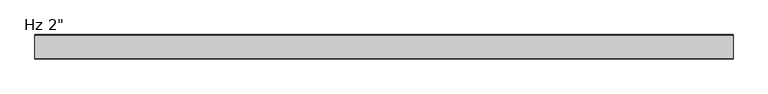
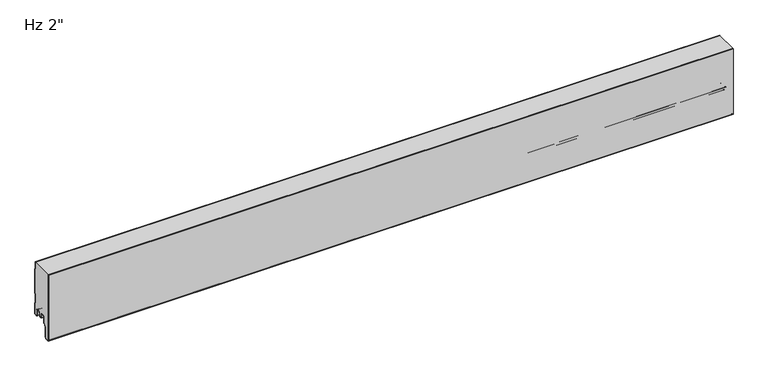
"""IFC4 building model written with IfcOpenShell, lengths in millimetres: plate geometry."""

from ifc_helpers import new_model, si_unit, point, frame, frame_2d, origin, place, context, project, spatial, polyline, circle_curve, trimmed, segment, composite_curve, outline, extrude, source, transform, mapped, element, save
from ifc_brep_helpers import plane_surface, cylinder_surface, revolved_surface, advanced_brep


def plate_2206daa0(model_context):
    return source(origin(), model_context, "Body", "SolidModel", [
        advanced_brep(
        [(-730.0, -22.470875, 1.0316999), (-730.0, -21.3014003, 2.2328239), (-730.0, -21.3014003, 5.9912173), (-730.0, -22.6998791, 5.9912173), (-730.0, -22.6998791, 8.6903283), (-730.0, -26.0498744, 12.0403236), (-730.0, -30.4498656, 12.0403236), (-730.0, -33.7998609, 8.6903283), (-730.0, -33.7998609, -3.1205608), (-730.0, -34.2977778, -4.3226385), (-730.0, -39.7998489, -9.8247096), (-730.0, -39.7998489, -31.9198392), (-730.0, -42.0184509, -34.5765709), (-730.0, -47.0002718, -35.0125699), (-730.0, -49.7945967, -32.4521176), (-730.0, -49.8, 114.0023437), (-730.0, -2.206575, 114.0023437), (-730.0, -2.206575, 98.6192114), (-730.0, -1.0063443, 97.2335785), (-730.0, -1.0063443, 43.1801631), (-730.0, -2.206575, 41.7945301), (-730.0, -2.206575, 22.4193638), (-730.0, -1.0063443, 21.0337309), (-730.0, -1.0063443, -3.4662506), (-730.0, -5.2378832, -3.4662506), (-730.0, -7.0078774, -1.6962564), (-730.0, -7.0078774, 8.7237222), (-730.0, -10.3078733, 12.023718), (-730.0, -14.7078645, 12.023718), (-730.0, -18.0078602, 8.7237223), (-730.0, -18.0078602, 6.0315125), (-730.0, -19.0078547, 6.0315125), (-730.0, -19.0078547, 2.0313089), (-730.0, -18.0078635, 1.0313117), (-730.0, -19.0391752, 0.0), (-730.0, -21.4391751, 0.0), (730.0, -22.470875, 1.0316999), (730.0, -21.4391751, 0.0), (730.0, -19.0391752, 0.0), (730.0, -18.0078635, 1.0313117), (730.0, -19.0078547, 2.0313089), (730.0, -19.0078547, 6.0315125), (730.0, -18.0078602, 6.0315125), (730.0, -18.0078602, 8.7237223), (730.0, -14.7078645, 12.023718), (730.0, -10.3078733, 12.023718), (730.0, -7.0078774, 8.7237222), (730.0, -7.0078774, -1.6962564), (730.0, -5.2378832, -3.4662506), (730.0, -1.0063443, -3.4662506), (730.0, -1.0063443, 21.0337309), (730.0, -2.206575, 22.4193638), (730.0, -2.206575, 41.7945301), (730.0, -1.0063443, 43.1801631), (730.0, -1.0063443, 97.2335785), (730.0, -2.206575, 98.6192114), (730.0, -2.206575, 114.0023437), (730.0, -49.8, 114.0023437), (730.0, -49.8, -32.4521176), (730.0, -47.0002718, -35.0125699), (730.0, -42.0184509, -34.5765709), (730.0, -39.7998489, -31.9198392), (730.0, -39.7998489, -9.8247096), (730.0, -34.2977778, -4.3226385), (730.0, -33.7998609, -3.1205608), (730.0, -33.7998609, 8.6903283), (730.0, -30.4498656, 12.0403236), (730.0, -26.0498744, 12.0403236), (730.0, -22.6998791, 8.6903283), (730.0, -22.6998791, 5.9912173), (730.0, -21.3014003, 5.9912173), (730.0, -21.3014003, 2.2328239)],
        [
            (0, 1, circle_curve(frame((-730.0, -22.5013969, 2.2313092), z_axis=(1.0, 0.0, 0.0), x_axis=(0.0, 0.0, -1.0)), 1.1999976)),
            (1, 2),
            (2, 3),
            (3, 4),
            (4, 5, circle_curve(frame((-730.0, -26.0498744, 8.6903283), z_axis=(1.0, 0.0, 0.0), x_axis=(0.0, 0.0, -1.0)), 3.3499953)),
            (5, 6),
            (6, 7, circle_curve(frame((-730.0, -30.4498656, 8.6903283), z_axis=(1.0, 0.0, 0.0), x_axis=(0.0, 0.0, -1.0)), 3.3499953)),
            (7, 8),
            (8, 9, circle_curve(frame((-730.0, -35.4998555, -3.1205608), z_axis=(-1.0, 0.0, 0.0), x_axis=(0.0, 0.0, -1.0)), 1.6999946)),
            (9, 10),
            (10, 11),
            (11, 12, circle_curve(frame((-730.0, -42.4998415, -31.9198392), z_axis=(-1.0, 0.0, 0.0), x_axis=(0.0, 0.0, -1.0)), 2.6999926)),
            (12, 13),
            (13, 14, circle_curve(frame((-730.0, -47.2243575, -32.4521176), z_axis=(-1.0, 0.0, 0.0), x_axis=(0.0, 0.0, -1.0)), 2.5702393)),
            (14, 15),
            (15, 16),
            (16, 17),
            (17, 18),
            (18, 19),
            (19, 20),
            (20, 21),
            (21, 22),
            (22, 23),
            (23, 24),
            (24, 25, circle_curve(frame((-730.0, -5.2378832, -1.6962564), z_axis=(-1.0, 0.0, 0.0), x_axis=(0.0, 0.0, -1.0)), 1.7699942)),
            (25, 26),
            (26, 27, circle_curve(frame((-730.0, -10.3078733, 8.7237222), z_axis=(1.0, 0.0, 0.0), x_axis=(0.0, 0.0, -1.0)), 3.2999959)),
            (27, 28),
            (28, 29, circle_curve(frame((-730.0, -14.7078645, 8.7237223), z_axis=(1.0, 0.0, 0.0), x_axis=(0.0, 0.0, -1.0)), 3.2999957)),
            (29, 30),
            (30, 31),
            (31, 32),
            (32, 33, circle_curve(frame((-730.0, -18.0078576, 2.0313089), z_axis=(1.0, 0.0, 0.0), x_axis=(0.0, 0.0, -1.0)), 0.9999972)),
            (33, 34),
            (34, 35),
            (35, 0),
            (36, 37),
            (37, 38),
            (38, 39),
            (39, 40, circle_curve(frame((730.0, -18.0078576, 2.0313089), z_axis=(-1.0, 0.0, 0.0), x_axis=(0.0, 0.0, -1.0)), 0.9999972)),
            (40, 41),
            (41, 42),
            (42, 43),
            (43, 44, circle_curve(frame((730.0, -14.7078645, 8.7237223), z_axis=(-1.0, 0.0, 0.0), x_axis=(0.0, 0.0, -1.0)), 3.2999957)),
            (44, 45),
            (45, 46, circle_curve(frame((730.0, -10.3078733, 8.7237222), z_axis=(-1.0, 0.0, 0.0), x_axis=(0.0, 0.0, -1.0)), 3.2999959)),
            (46, 47),
            (47, 48, circle_curve(frame((730.0, -5.2378832, -1.6962564), z_axis=(1.0, 0.0, 0.0), x_axis=(0.0, 0.0, -1.0)), 1.7699942)),
            (48, 49),
            (49, 50),
            (50, 51),
            (51, 52),
            (52, 53),
            (53, 54),
            (54, 55),
            (55, 56),
            (56, 57),
            (57, 58),
            (58, 59, circle_curve(frame((730.0, -47.2243575, -32.4521176), z_axis=(1.0, 0.0, 0.0), x_axis=(0.0, 0.0, -1.0)), 2.5702393)),
            (59, 60),
            (60, 61, circle_curve(frame((730.0, -42.4998415, -31.9198392), z_axis=(1.0, 0.0, 0.0), x_axis=(0.0, 0.0, -1.0)), 2.6999926)),
            (61, 62),
            (62, 63),
            (63, 64, circle_curve(frame((730.0, -35.4998555, -3.1205608), z_axis=(1.0, 0.0, 0.0), x_axis=(0.0, 0.0, -1.0)), 1.6999946)),
            (64, 65),
            (65, 66, circle_curve(frame((730.0, -30.4498656, 8.6903283), z_axis=(-1.0, 0.0, 0.0), x_axis=(0.0, 0.0, -1.0)), 3.3499953)),
            (66, 67),
            (67, 68, circle_curve(frame((730.0, -26.0498744, 8.6903283), z_axis=(-1.0, 0.0, 0.0), x_axis=(0.0, 0.0, -1.0)), 3.3499953)),
            (68, 69),
            (69, 70),
            (70, 71),
            (71, 36, circle_curve(frame((730.0, -22.5013969, 2.2313092), z_axis=(-1.0, 0.0, 0.0), x_axis=(0.0, 0.0, -1.0)), 1.1999976)),
            (15, 57),
            (56, 16),
            (34, 38),
            (37, 35),
            (18, 54),
            (53, 19),
            (55, 17),
            (20, 52),
            (51, 21),
            (50, 22),
            (49, 23),
            (0, 36),
            (71, 1),
            (26, 46),
            (45, 27),
            (48, 24),
            (25, 47),
            (28, 44),
            (43, 29),
            (30, 42),
            (41, 31),
            (14, 58),
            (33, 39),
            (32, 40),
            (13, 59),
            (12, 60),
            (10, 62),
            (61, 11),
            (9, 63),
            (7, 65),
            (64, 8),
            (6, 66),
            (4, 68),
            (67, 5),
            (3, 69),
            (2, 70),
        ],
        [
            plane_surface(frame((-730.0, -49.8, 381.0), z_axis=(-1.0, 0.0, 0.0), x_axis=(0.0, -1.0, 0.0))),
            plane_surface(frame((730.0, -49.8, 381.0), z_axis=(1.0, 0.0, 0.0), x_axis=(0.0, -1.0, 0.0))),
            plane_surface(frame((730.0, 10.0, 114.0023437), z_axis=(0.0, 0.0, 1.0), x_axis=(-1.0, 0.0, 0.0))),
            plane_surface(frame((-730.0, -21.4391751, 0.0), z_axis=(0.0, 0.0, -1.0), x_axis=(1.0, 0.0, 0.0))),
            plane_surface(frame((-730.0, -1.0063443, 43.1801631), z_axis=(0.0, 1.0, 0.0), x_axis=(1.0, 0.0, 0.0))),
            plane_surface(frame((-730.0, -2.206575, 98.6192114), z_axis=(0.0, 1.0, 0.0), x_axis=(1.0, 0.0, 0.0))),
            plane_surface(frame((-730.0, -1.0063443, 97.2335785), z_axis=(0.0, 0.7558648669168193, 0.6547276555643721), x_axis=(1.0, 0.0, 0.0))),
            plane_surface(frame((-730.0, -2.206575, 22.4193638), z_axis=(0.0, 1.0, 0.0), x_axis=(1.0, 0.0, 0.0))),
            plane_surface(frame((-730.0, -2.206575, 41.7945301), z_axis=(0.0, 0.7558648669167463, -0.6547276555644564), x_axis=(1.0, 0.0, 0.0))),
            plane_surface(frame((-730.0, -1.0063443, 21.0337309), z_axis=(0.0, 0.7558648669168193, 0.6547276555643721), x_axis=(1.0, 0.0, 0.0))),
            plane_surface(frame((-730.0, -1.0063443, -3.4662506), z_axis=(0.0, 1.0, 0.0), x_axis=(1.0, 0.0, 0.0))),
            revolved_surface(polyline([(730.0, -22.5013969, 1.0313116), (-730.0, -22.5013969, 1.0313116)]), (-730.0, -22.5013969, 2.2313092), (1.0, 0.0, 0.0)),
            plane_surface(frame((-730.0, -22.470875, 1.0316999), z_axis=(0.0, -0.7071067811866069, -0.7071067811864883), x_axis=(1.0, 0.0, 0.0))),
            revolved_surface(polyline([(730.0, -10.3078733, 5.423726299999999), (-730.0, -10.3078733, 5.423726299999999)]), (-730.0, -10.3078733, 8.7237222), (1.0, 0.0, 0.0)),
            plane_surface(frame((-730.0, -5.2378832, -3.4662506), z_axis=(0.0, 0.0, -1.0), x_axis=(1.0, 0.0, 0.0))),
            plane_surface(frame((-730.0, -7.0078774, 8.7237222), z_axis=(0.0, -1.0, 0.0), x_axis=(1.0, 0.0, 0.0))),
            cylinder_surface(frame((-730.0, -5.2378832, -1.6962564), z_axis=(-1.0, 0.0, 0.0), x_axis=(0.0, 0.0, -1.0)), 1.7699942),
            revolved_surface(polyline([(730.0, -14.7078645, 5.4237266), (-730.0, -14.7078645, 5.4237266)]), (-730.0, -14.7078645, 8.7237223), (1.0, 0.0, 0.0)),
            plane_surface(frame((-730.0, -14.7078645, 12.023718), z_axis=(0.0, 0.0, -1.0), x_axis=(1.0, 0.0, 0.0))),
            plane_surface(frame((-730.0, -19.0078547, 6.0315125), z_axis=(0.0, 0.0, -1.0), x_axis=(1.0, 0.0, 0.0))),
            plane_surface(frame((-730.0, -18.0078602, 6.0315125), z_axis=(0.0, 1.0, 0.0), x_axis=(1.0, 0.0, 0.0))),
            plane_surface(frame((-730.0, -49.8, 713.515622), z_axis=(0.0, -1.0, 0.0), x_axis=(1.0, 0.0, 0.0))),
            plane_surface(frame((-730.0, -19.0391752, 0.0), z_axis=(0.0, 0.7071067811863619, -0.7071067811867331), x_axis=(1.0, 0.0, 0.0))),
            revolved_surface(polyline([(730.0, -18.0078576, 1.0313116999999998), (-730.0, -18.0078576, 1.0313116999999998)]), (-730.0, -18.0078576, 2.0313089), (1.0, 0.0, 0.0)),
            plane_surface(frame((-730.0, -19.0078547, 2.0313089), z_axis=(0.0, 1.0, 0.0), x_axis=(1.0, 0.0, 0.0))),
            cylinder_surface(frame((-730.0, -47.2243575, -32.4521176), z_axis=(-1.0, 0.0, 0.0), x_axis=(0.0, 0.0, -1.0)), 2.5702393),
            plane_surface(frame((-730.0, -47.0002718, -35.0125699), z_axis=(0.0, 0.08718474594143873, -0.9961921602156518), x_axis=(1.0, 0.0, 0.0))),
            plane_surface(frame((-730.0, -39.7998489, -31.9198392), z_axis=(0.0, 1.0, 0.0), x_axis=(1.0, 0.0, 0.0))),
            cylinder_surface(frame((-730.0, -42.4998415, -31.9198392), z_axis=(-1.0, 0.0, 0.0), x_axis=(0.0, 0.0, -1.0)), 2.6999926),
            plane_surface(frame((-730.0, -39.7998489, -9.8247096), z_axis=(0.0, 0.7071067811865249, -0.7071067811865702), x_axis=(1.0, 0.0, 0.0))),
            plane_surface(frame((-730.0, -33.7998609, -3.1205608), z_axis=(0.0, 1.0, 0.0), x_axis=(1.0, 0.0, 0.0))),
            revolved_surface(polyline([(730.0, -30.4498656, 5.340332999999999), (-730.0, -30.4498656, 5.340332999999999)]), (-730.0, -30.4498656, 8.6903283), (1.0, 0.0, 0.0)),
            cylinder_surface(frame((-730.0, -35.4998555, -3.1205608), z_axis=(-1.0, 0.0, 0.0), x_axis=(0.0, 0.0, -1.0)), 1.6999946),
            revolved_surface(polyline([(730.0, -26.0498744, 5.340332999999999), (-730.0, -26.0498744, 5.340332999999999)]), (-730.0, -26.0498744, 8.6903283), (1.0, 0.0, 0.0)),
            plane_surface(frame((-730.0, -30.4498656, 12.0403236), z_axis=(0.0, 0.0, -1.0), x_axis=(1.0, 0.0, 0.0))),
            plane_surface(frame((-730.0, -22.6998791, 8.6903283), z_axis=(0.0, -1.0, 0.0), x_axis=(1.0, 0.0, 0.0))),
            plane_surface(frame((-730.0, -22.6998791, 5.9912173), z_axis=(0.0, 0.0, -1.0), x_axis=(1.0, 0.0, 0.0))),
            plane_surface(frame((-730.0, -21.3014003, 5.9912173), z_axis=(0.0, -1.0, 0.0), x_axis=(1.0, 0.0, 0.0))),
        ],
        [
            (0, [[1, 2, 3, 4, 5, 6, 7, 8, 9, 10, 11, 12, 13, 14, 15, 16, 17, 18, 19, 20, 21, 22, 23, 24, 25, 26, 27, 28, 29, 30, 31, 32, 33, 34, 35, 36]]),
            (1, [[37, 38, 39, 40, 41, 42, 43, 44, 45, 46, 47, 48, 49, 50, 51, 52, 53, 54, 55, 56, 57, 58, 59, 60, 61, 62, 63, 64, 65, 66, 67, 68, 69, 70, 71, 72]]),
            (2, [[73, -57, 74, -16]]),
            (3, [[75, -38, 76, -35]]),
            (4, [[77, -54, 78, -19]]),
            (5, [[-17, -74, -56, 79]]),
            (6, [[-79, -55, -77, -18]]),
            (7, [[80, -52, 81, -21]]),
            (8, [[-78, -53, -80, -20]]),
            (9, [[-81, -51, 82, -22]]),
            (10, [[-82, -50, 83, -23]]),
            (11, [[84, -72, 85, -1]]),
            (12, [[-76, -37, -84, -36]]),
            (13, [[86, -46, 87, -27]]),
            (14, [[-83, -49, 88, -24]]),
            (15, [[89, -47, -86, -26]]),
            (16, [[-88, -48, -89, -25]]),
            (17, [[90, -44, 91, -29]]),
            (18, [[-87, -45, -90, -28]]),
            (19, [[92, -42, 93, -31]]),
            (20, [[-91, -43, -92, -30]]),
            (21, [[-58, -73, -15, 94]]),
            (22, [[95, -39, -75, -34]]),
            (23, [[96, -40, -95, -33]]),
            (24, [[-93, -41, -96, -32]]),
            (25, [[97, -59, -94, -14]]),
            (26, [[98, -60, -97, -13]]),
            (27, [[99, -62, 100, -11]]),
            (28, [[-100, -61, -98, -12]]),
            (29, [[101, -63, -99, -10]]),
            (30, [[102, -65, 103, -8]]),
            (31, [[104, -66, -102, -7]]),
            (32, [[-103, -64, -101, -9]]),
            (33, [[105, -68, 106, -5]]),
            (34, [[-106, -67, -104, -6]]),
            (35, [[107, -69, -105, -4]]),
            (36, [[108, -70, -107, -3]]),
            (37, [[-85, -71, -108, -2]]),
        ],
    ),
        advanced_brep(
        [(-730.0, -17.0015159, 2.0313088), (-730.0, -18.0015191, 1.0313116), (-730.0, -19.0015105, 2.0313088), (-730.0, -19.0015105, 6.0315125), (-730.0, -18.0015159, 6.0315125), (-730.0, -18.0015159, 8.7237223), (-730.0, -14.7015202, 12.023718), (-730.0, -10.301529, 12.023718), (-730.0, -7.0015335, 8.7237225), (-730.0, -7.0015335, -1.6962564), (-730.0, -5.2315393, -3.4662506), (-730.0, -0.9999916, -3.4662506), (-730.0, -0.9999916, 21.034026), (-730.0, -2.2002307, 22.4196686), (-730.0, -2.2002307, 41.7948349), (-730.0, -1.0, 43.1804679), (-730.0, -1.0, 97.2338833), (-730.0, -2.2002307, 98.6195162), (-730.0, -2.2002307, 114.0023437), (-730.0, -1.2002307, 114.0023437), (-730.0, -1.2002307, 98.9923967), (-730.0, -0.3417885, 98.001349), (-730.0, 0.0, 97.0847321), (-730.0, 0.0, 43.329619), (-730.0, -0.3417885, 42.4130021), (-730.0, -1.2002307, 41.4219545), (-730.0, -1.2002307, 22.7925491), (-730.0, -0.3417885, 21.8015014), (-730.0, 0.0, 20.8847931), (-730.0, 8.4e-06, -3.0662545), (-730.0, -1.3999878, -4.4662506), (-730.0, -5.2315393, -4.4662506), (-730.0, -8.0015335, -1.6962564), (-730.0, -8.0015335, 8.7237225), (-730.0, -10.301529, 11.023718), (-730.0, -14.7015202, 11.023718), (-730.0, -17.0015159, 8.7237223), (730.0, -17.0015159, 2.0313088), (730.0, -17.0015159, 8.7237223), (730.0, -14.7015202, 11.023718), (730.0, -10.301529, 11.023718), (730.0, -8.0015335, 8.7237225), (730.0, -8.0015335, -1.6962564), (730.0, -5.2315393, -4.4662506), (730.0, -1.3999878, -4.4662506), (730.0, 8.4e-06, -3.0662545), (730.0, 8.4e-06, 20.8848845), (730.0, -0.3417885, 21.8015014), (730.0, -1.2002307, 22.7925491), (730.0, -1.2002307, 41.4219545), (730.0, -0.3417885, 42.4130021), (730.0, 0.0, 43.329619), (730.0, 0.0, 97.0847321), (730.0, -0.3417885, 98.001349), (730.0, -1.2002307, 98.9923967), (730.0, -1.2002307, 114.0023437), (730.0, -2.2002307, 114.0023437), (730.0, -2.2002307, 98.6195162), (730.0, -1.0, 97.2338833), (730.0, -1.0, 43.1804679), (730.0, -2.2002307, 41.7948349), (730.0, -2.2002307, 22.4196686), (730.0, -0.9999916, 21.034026), (730.0, -0.9999916, -3.4662506), (730.0, -5.2315393, -3.4662506), (730.0, -7.0015335, -1.6962564), (730.0, -7.0015335, 8.7237225), (730.0, -10.301529, 12.023718), (730.0, -14.7015202, 12.023718), (730.0, -18.0015159, 8.7237223), (730.0, -18.0015159, 6.0315125), (730.0, -19.0015105, 6.0315125), (730.0, -19.0015105, 2.0313088), (730.0, -18.0015192, 1.0313116)],
        [
            (0, 1, circle_curve(frame((-730.0, -18.0015132, 2.0313088), z_axis=(-1.0, 0.0, 0.0), x_axis=(0.0, 0.0, 1.0)), 0.9999973)),
            (1, 2, circle_curve(frame((-730.0, -18.0015133, 2.0313088), z_axis=(-1.0, 0.0, 0.0), x_axis=(0.0, 0.0, 1.0)), 0.9999972)),
            (2, 3),
            (3, 4),
            (4, 5),
            (5, 6, circle_curve(frame((-730.0, -14.7015202, 8.7237223), z_axis=(-1.0, 0.0, 0.0), x_axis=(0.0, 0.0, 1.0)), 3.2999957)),
            (6, 7),
            (7, 8, circle_curve(frame((-730.0, -10.301529, 8.7237225), z_axis=(-1.0, 0.0, 0.0), x_axis=(0.0, 0.0, 1.0)), 3.2999955)),
            (8, 9),
            (9, 10, circle_curve(frame((-730.0, -5.2315393, -1.6962564), z_axis=(1.0, 0.0, 0.0), x_axis=(0.0, 0.0, 1.0)), 1.7699942)),
            (10, 11),
            (11, 12),
            (12, 13),
            (13, 14),
            (14, 15),
            (15, 16),
            (16, 17),
            (17, 18),
            (18, 19),
            (19, 20),
            (20, 21),
            (21, 22, circle_curve(frame((-730.0, -1.3999972, 97.0847321), z_axis=(-1.0, 0.0, 0.0), x_axis=(0.0, 0.0, 1.0)), 1.3999972)),
            (22, 23),
            (23, 24, circle_curve(frame((-730.0, -1.3999972, 43.329619), z_axis=(-1.0, 0.0, 0.0), x_axis=(0.0, 0.0, 1.0)), 1.3999972)),
            (24, 25),
            (25, 26),
            (26, 27),
            (27, 28, circle_curve(frame((-730.0, -1.3999972, 20.8848845), z_axis=(-1.0, 0.0, 0.0), x_axis=(0.0, 0.0, 1.0)), 1.3999972)),
            (28, 29),
            (29, 30, circle_curve(frame((-730.0, -1.3999878, -3.0662545), z_axis=(-1.0, 0.0, 0.0), x_axis=(0.0, 0.0, 1.0)), 1.3999962)),
            (30, 31),
            (31, 32, circle_curve(frame((-730.0, -5.2315393, -1.6962564), z_axis=(-1.0, 0.0, 0.0), x_axis=(0.0, 0.0, 1.0)), 2.7699942)),
            (32, 33),
            (33, 34, circle_curve(frame((-730.0, -10.301529, 8.7237225), z_axis=(1.0, 0.0, 0.0), x_axis=(0.0, 0.0, 1.0)), 2.2999955)),
            (34, 35),
            (35, 36, circle_curve(frame((-730.0, -14.7015202, 8.7237223), z_axis=(1.0, 0.0, 0.0), x_axis=(0.0, 0.0, 1.0)), 2.2999957)),
            (36, 0),
            (37, 38),
            (38, 39, circle_curve(frame((730.0, -14.7015202, 8.7237223), z_axis=(-1.0, 0.0, 0.0), x_axis=(0.0, 0.0, 1.0)), 2.2999957)),
            (39, 40),
            (40, 41, circle_curve(frame((730.0, -10.301529, 8.7237225), z_axis=(-1.0, 0.0, 0.0), x_axis=(0.0, 0.0, 1.0)), 2.2999955)),
            (41, 42),
            (42, 43, circle_curve(frame((730.0, -5.2315393, -1.6962564), z_axis=(1.0, 0.0, 0.0), x_axis=(0.0, 0.0, 1.0)), 2.7699942)),
            (43, 44),
            (44, 45, circle_curve(frame((730.0, -1.3999878, -3.0662545), z_axis=(1.0, 0.0, 0.0), x_axis=(0.0, 0.0, 1.0)), 1.3999962)),
            (45, 46),
            (46, 47, circle_curve(frame((730.0, -1.3999972, 20.8848845), z_axis=(1.0, 0.0, 0.0), x_axis=(0.0, 0.0, 1.0)), 1.3999972)),
            (47, 48),
            (48, 49),
            (49, 50),
            (50, 51, circle_curve(frame((730.0, -1.3999972, 43.329619), z_axis=(1.0, 0.0, 0.0), x_axis=(0.0, 0.0, 1.0)), 1.3999972)),
            (51, 52),
            (52, 53, circle_curve(frame((730.0, -1.3999972, 97.0847321), z_axis=(1.0, 0.0, 0.0), x_axis=(0.0, 0.0, 1.0)), 1.3999972)),
            (53, 54),
            (54, 55),
            (55, 56),
            (56, 57),
            (57, 58),
            (58, 59),
            (59, 60),
            (60, 61),
            (61, 62),
            (62, 63),
            (63, 64),
            (64, 65, circle_curve(frame((730.0, -5.2315393, -1.6962564), z_axis=(-1.0, 0.0, 0.0), x_axis=(0.0, 0.0, 1.0)), 1.7699942)),
            (65, 66),
            (66, 67, circle_curve(frame((730.0, -10.301529, 8.7237225), z_axis=(1.0, 0.0, 0.0), x_axis=(0.0, 0.0, 1.0)), 3.2999955)),
            (67, 68),
            (68, 69, circle_curve(frame((730.0, -14.7015202, 8.7237223), z_axis=(1.0, 0.0, 0.0), x_axis=(0.0, 0.0, 1.0)), 3.2999957)),
            (69, 70),
            (70, 71),
            (71, 72),
            (72, 73, circle_curve(frame((730.0, -18.0015133, 2.0313088), z_axis=(1.0, 0.0, 0.0), x_axis=(0.0, 0.0, 1.0)), 0.9999972)),
            (73, 37, circle_curve(frame((730.0, -18.0015132, 2.0313088), z_axis=(1.0, 0.0, 0.0), x_axis=(0.0, 0.0, 1.0)), 0.9999973)),
            (18, 56),
            (55, 19),
            (36, 38),
            (37, 0),
            (35, 39),
            (34, 40),
            (33, 41),
            (32, 42),
            (31, 43),
            (30, 44),
            (29, 45),
            (28, 46),
            (27, 47),
            (26, 48),
            (25, 49),
            (24, 50),
            (23, 51),
            (22, 52),
            (21, 53),
            (20, 54),
            (17, 57),
            (16, 58),
            (15, 59),
            (14, 60),
            (13, 61),
            (12, 62),
            (11, 63),
            (10, 64),
            (9, 65),
            (8, 66),
            (7, 67),
            (6, 68),
            (5, 69),
            (4, 70),
            (3, 71),
            (2, 72),
            (1, 73),
        ],
        [
            plane_surface(frame((-730.0, 0.0, 381.0), z_axis=(-1.0, 0.0, 0.0), x_axis=(0.0, 1.0, 0.0))),
            plane_surface(frame((730.0, 0.0, 381.0), z_axis=(1.0, 0.0, 0.0), x_axis=(0.0, 1.0, 0.0))),
            plane_surface(frame((730.0, 10.0, 114.0023437), z_axis=(0.0, 0.0, 1.0), x_axis=(-1.0, 0.0, 0.0))),
            plane_surface(frame((-730.0, -17.0015159, 2.0313088), z_axis=(0.0, 1.0, 0.0), x_axis=(1.0, 0.0, 0.0))),
            revolved_surface(polyline([(730.0, -14.7015202, 11.023718), (-730.0, -14.7015202, 11.023718)]), (-730.0, -14.7015202, 8.7237223), (1.0, 0.0, 0.0)),
            plane_surface(frame((-730.0, -14.7015202, 11.023718), z_axis=(0.0, 0.0, -1.0), x_axis=(1.0, 0.0, 0.0))),
            revolved_surface(polyline([(730.0, -10.301529, 11.023717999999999), (-730.0, -10.301529, 11.023717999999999)]), (-730.0, -10.301529, 8.7237225), (1.0, 0.0, 0.0)),
            plane_surface(frame((-730.0, -8.0015335, 8.7237225), z_axis=(0.0, -1.0, 0.0), x_axis=(1.0, 0.0, 0.0))),
            cylinder_surface(frame((-730.0, -5.2315393, -1.6962564), z_axis=(-1.0, 0.0, 0.0), x_axis=(0.0, 0.0, 1.0)), 2.7699942),
            plane_surface(frame((-730.0, -5.2315393, -4.4662506), z_axis=(0.0, 0.0, -1.0), x_axis=(1.0, 0.0, 0.0))),
            cylinder_surface(frame((-730.0, -1.3999878, -3.0662545), z_axis=(-1.0, 0.0, 0.0), x_axis=(0.0, 0.0, 1.0)), 1.3999962),
            plane_surface(frame((-730.0, 8.4e-06, -3.0662545), z_axis=(0.0, 1.0, 0.0), x_axis=(1.0, 0.0, 0.0))),
            cylinder_surface(frame((-730.0, -1.3999972, 20.8848845), z_axis=(-1.0, 0.0, 0.0), x_axis=(0.0, 0.0, 1.0)), 1.3999972),
            plane_surface(frame((-730.0, -0.3417885, 21.8015014), z_axis=(0.0, 0.755864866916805, 0.6547276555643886), x_axis=(1.0, 0.0, 0.0))),
            plane_surface(frame((-730.0, -1.2002307, 32.1072518), z_axis=(0.0, 1.0, 0.0), x_axis=(1.0, 0.0, 0.0))),
            plane_surface(frame((-730.0, -1.2002307, 41.4219545), z_axis=(0.0, 0.755864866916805, -0.6547276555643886), x_axis=(1.0, 0.0, 0.0))),
            cylinder_surface(frame((-730.0, -1.3999972, 43.329619), z_axis=(-1.0, 0.0, 0.0), x_axis=(0.0, 0.0, 1.0)), 1.3999972),
            plane_surface(frame((-730.0, 0.0, 43.329619), z_axis=(0.0, 1.0, 0.0), x_axis=(1.0, 0.0, 0.0))),
            cylinder_surface(frame((-730.0, -1.3999972, 97.0847321), z_axis=(-1.0, 0.0, 0.0), x_axis=(0.0, 0.0, 1.0)), 1.3999972),
            plane_surface(frame((-730.0, -0.3417885, 98.001349), z_axis=(0.0, 0.755864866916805, 0.6547276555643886), x_axis=(1.0, 0.0, 0.0))),
            plane_surface(frame((-730.0, -1.2002307, 108.3070994), z_axis=(0.0, 1.0, 0.0), x_axis=(1.0, 0.0, 0.0))),
            plane_surface(frame((-730.0, -2.2002307, 117.9946825), z_axis=(0.0, -1.0, 0.0), x_axis=(1.0, 0.0, 0.0))),
            plane_surface(frame((-730.0, -2.2002307, 98.6195162), z_axis=(0.0, -0.755864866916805, -0.6547276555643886), x_axis=(1.0, 0.0, 0.0))),
            plane_surface(frame((-730.0, -1.0, 97.2338833), z_axis=(0.0, -1.0, 0.0), x_axis=(1.0, 0.0, 0.0))),
            plane_surface(frame((-730.0, -1.0, 43.1804679), z_axis=(0.0, -0.755864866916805, 0.6547276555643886), x_axis=(1.0, 0.0, 0.0))),
            plane_surface(frame((-730.0, -2.2002307, 41.7948349), z_axis=(0.0, -1.0, 0.0), x_axis=(1.0, 0.0, 0.0))),
            plane_surface(frame((-730.0, -2.2002307, 22.4196686), z_axis=(0.0, -0.755864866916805, -0.6547276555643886), x_axis=(1.0, 0.0, 0.0))),
            plane_surface(frame((-730.0, -0.9999916, 21.034026), z_axis=(0.0, -1.0, 0.0), x_axis=(1.0, 0.0, 0.0))),
            plane_surface(frame((-730.0, -0.9999916, -3.4662506), z_axis=(0.0, 0.0, 1.0), x_axis=(1.0, 0.0, 0.0))),
            revolved_surface(polyline([(730.0, -5.2315393, 0.07373779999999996), (-730.0, -5.2315393, 0.07373779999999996)]), (-730.0, -5.2315393, -1.6962564), (1.0, 0.0, 0.0)),
            plane_surface(frame((-730.0, -7.0015335, -1.6962564), z_axis=(0.0, 1.0, 0.0), x_axis=(1.0, 0.0, 0.0))),
            cylinder_surface(frame((-730.0, -10.301529, 8.7237225), z_axis=(-1.0, 0.0, 0.0), x_axis=(0.0, 0.0, 1.0)), 3.2999955),
            plane_surface(frame((-730.0, -10.301529, 12.023718), z_axis=(0.0, 0.0, 1.0), x_axis=(1.0, 0.0, 0.0))),
            cylinder_surface(frame((-730.0, -14.7015202, 8.7237223), z_axis=(-1.0, 0.0, 0.0), x_axis=(0.0, 0.0, 1.0)), 3.2999957),
            plane_surface(frame((-730.0, -18.0015159, 8.7237223), z_axis=(0.0, -1.0, 0.0), x_axis=(1.0, 0.0, 0.0))),
            plane_surface(frame((-730.0, -18.0015159, 6.0315125), z_axis=(0.0, 0.0, 1.0), x_axis=(1.0, 0.0, 0.0))),
            plane_surface(frame((-730.0, -19.0015105, 6.0315125), z_axis=(0.0, -1.0, 0.0), x_axis=(1.0, 0.0, 0.0))),
            cylinder_surface(frame((-730.0, -18.0015133, 2.0313088), z_axis=(-1.0, 0.0, 0.0), x_axis=(0.0, 0.0, 1.0)), 0.9999972),
            cylinder_surface(frame((-730.0, -18.0015132, 2.0313088), z_axis=(-1.0, 0.0, 0.0), x_axis=(0.0, 0.0, 1.0)), 0.9999973),
        ],
        [
            (0, [[1, 2, 3, 4, 5, 6, 7, 8, 9, 10, 11, 12, 13, 14, 15, 16, 17, 18, 19, 20, 21, 22, 23, 24, 25, 26, 27, 28, 29, 30, 31, 32, 33, 34, 35, 36, 37]]),
            (1, [[38, 39, 40, 41, 42, 43, 44, 45, 46, 47, 48, 49, 50, 51, 52, 53, 54, 55, 56, 57, 58, 59, 60, 61, 62, 63, 64, 65, 66, 67, 68, 69, 70, 71, 72, 73, 74]]),
            (2, [[75, -56, 76, -19]]),
            (3, [[77, -38, 78, -37]]),
            (4, [[79, -39, -77, -36]]),
            (5, [[80, -40, -79, -35]]),
            (6, [[81, -41, -80, -34]]),
            (7, [[82, -42, -81, -33]]),
            (8, [[83, -43, -82, -32]]),
            (9, [[84, -44, -83, -31]]),
            (10, [[85, -45, -84, -30]]),
            (11, [[86, -46, -85, -29]]),
            (12, [[87, -47, -86, -28]]),
            (13, [[88, -48, -87, -27]]),
            (14, [[89, -49, -88, -26]]),
            (15, [[90, -50, -89, -25]]),
            (16, [[91, -51, -90, -24]]),
            (17, [[92, -52, -91, -23]]),
            (18, [[93, -53, -92, -22]]),
            (19, [[94, -54, -93, -21]]),
            (20, [[-20, -76, -55, -94]]),
            (21, [[-57, -75, -18, 95]]),
            (22, [[96, -58, -95, -17]]),
            (23, [[97, -59, -96, -16]]),
            (24, [[98, -60, -97, -15]]),
            (25, [[99, -61, -98, -14]]),
            (26, [[100, -62, -99, -13]]),
            (27, [[101, -63, -100, -12]]),
            (28, [[102, -64, -101, -11]]),
            (29, [[103, -65, -102, -10]]),
            (30, [[104, -66, -103, -9]]),
            (31, [[105, -67, -104, -8]]),
            (32, [[106, -68, -105, -7]]),
            (33, [[107, -69, -106, -6]]),
            (34, [[108, -70, -107, -5]]),
            (35, [[109, -71, -108, -4]]),
            (36, [[110, -72, -109, -3]]),
            (37, [[111, -73, -110, -2]]),
            (38, [[-78, -74, -111, -1]]),
        ],
    ),
        extrude(outline(composite_curve([segment(trimmed(circle_curve(frame_2d((-47.2296795, -32.4521105)), 3.5702393), [point((-46.9184091, -36.0087549))], [point((-50.7999188, -32.4521083))], False, "CARTESIAN"), True, "CONTINUOUS"), segment(polyline([(-50.7999188, -32.4521083), (-50.7998251, 114.0023437), (-49.7993606, 114.0023437), (-49.7993606, -32.509446)]), True, "CONTINUOUS"), segment(trimmed(circle_curve(frame_2d((-47.2297607, -32.4521176)), 2.5702393), [point((-49.7993606, -32.509446))], [point((-47.0056751, -35.0125699))], True, "CARTESIAN"), True, "CONTINUOUS"), segment(polyline([(-47.0056751, -35.0125699), (-42.0238542, -34.5765709)]), True, "CONTINUOUS"), segment(trimmed(circle_curve(frame_2d((-42.5052448, -31.9198392)), 2.6999926), [point((-42.0238542, -34.5765709))], [point((-39.8052522, -31.9198392))], True, "CARTESIAN"), True, "CONTINUOUS"), segment(polyline([(-39.8052522, -31.9198392), (-39.8052522, -9.8247096), (-34.3031811, -4.3226385)]), True, "CONTINUOUS"), segment(trimmed(circle_curve(frame_2d((-35.5052588, -3.1205608)), 1.6999946), [point((-34.3031811, -4.3226385))], [point((-33.8052642, -3.1205608))], True, "CARTESIAN"), True, "CONTINUOUS"), segment(polyline([(-33.8052642, -3.1205608), (-33.8052642, 8.6903283)]), True, "CONTINUOUS"), segment(trimmed(circle_curve(frame_2d((-30.4552689, 8.6903283)), 3.3499953), [point((-33.8052642, 8.6903283))], [point((-30.4552689, 12.0403236))], False, "CARTESIAN"), True, "CONTINUOUS"), segment(polyline([(-30.4552689, 12.0403236), (-26.0552777, 12.0403236)]), True, "CONTINUOUS"), segment(trimmed(circle_curve(frame_2d((-26.0552777, 8.6903283)), 3.3499953), [point((-26.0552777, 12.0403236))], [point((-22.7052824, 8.6903283))], False, "CARTESIAN"), True, "CONTINUOUS"), segment(polyline([(-22.7052824, 8.6903283), (-22.7052824, 5.9912173), (-21.3068035, 5.9912173), (-21.3068035, 2.2328239)]), True, "CONTINUOUS"), segment(trimmed(circle_curve(frame_2d((-22.5068002, 2.2313092)), 1.1999976), [point((-21.3068035, 2.2328239))], [point((-22.4762782, 1.0316999))], False, "CARTESIAN"), True, "CONTINUOUS"), segment(trimmed(circle_curve(frame_2d((-22.5068002, 2.2313092)), 1.1999976), [point((-22.4762782, 1.0316999))], [point((-23.7052824, 2.1710221))], False, "CARTESIAN"), True, "CONTINUOUS"), segment(polyline([(-23.7052824, 2.1710221), (-23.7052824, 8.6903283)]), True, "CONTINUOUS"), segment(trimmed(circle_curve(frame_2d((-26.0552777, 8.6903283)), 2.3499953), [point((-23.7052824, 8.6903283))], [point((-26.0552777, 11.0403236))], True, "CARTESIAN"), True, "CONTINUOUS"), segment(polyline([(-26.0552777, 11.0403236), (-30.4552689, 11.0403236)]), True, "CONTINUOUS"), segment(trimmed(circle_curve(frame_2d((-30.4552689, 8.6903283)), 2.3499953), [point((-30.4552689, 11.0403236))], [point((-32.8052642, 8.6903283))], True, "CARTESIAN"), True, "CONTINUOUS"), segment(polyline([(-32.8052642, 8.6903283), (-32.8052642, -3.1205608)]), True, "CONTINUOUS"), segment(trimmed(circle_curve(frame_2d((-35.5052588, -3.1205608)), 2.6999946), [point((-32.8052642, -3.1205608))], [point((-33.5960743, -5.0297453))], False, "CARTESIAN"), True, "CONTINUOUS"), segment(polyline([(-33.5960743, -5.0297453), (-38.4244918, -9.8581627)]), True, "CONTINUOUS"), segment(trimmed(circle_curve(frame_2d((-37.5052548, -10.7773997)), 1.2999974), [point((-38.4244918, -9.8581627))], [point((-38.8052522, -10.7773997))], True, "CARTESIAN"), True, "CONTINUOUS"), segment(polyline([(-38.8052522, -10.7773997), (-38.8052522, -31.9198392)]), True, "CONTINUOUS"), segment(trimmed(circle_curve(frame_2d((-42.5052448, -31.9198392)), 3.6999926), [point((-38.8052522, -31.9198392))], [point((-41.8944437, -35.5690675))], False, "CARTESIAN"), True, "CONTINUOUS"), segment(polyline([(-41.8944437, -35.5690675), (-46.9184091, -36.0087549)]), True, "CONTINUOUS")], self_intersect=False)), frame((-730.0, 0.0, 0.0), z_axis=(1.0, 0.0, 0.0), x_axis=(0.0, 1.0, 0.0)), (0.0, 0.0, 1.0), 1460.0),
    ])


if __name__ == "__main__":
    model = new_model("IFC4")
    model_context = context("Model", 3, world=origin())
    ifc_project = project(units=[si_unit("LENGTHUNIT", "METRE", prefix="MILLI")], contexts=[model_context])
    site = spatial("IfcSite", under=ifc_project)
    building = spatial("IfcBuilding", under=site)
    placement = place(None, origin())
    plate_shape = plate_2206daa0(model_context)
    element("IfcPlate", 1, ObjectType="KIP-30-Karrier-KP-R19-CP-Hz-FL3-8in_SL : Hz 2\"", at=placement, inside=building, context=model_context, shape_type="MappedRepresentation", body=[
        mapped(plate_shape, transform((0.0, 0.0, 0.0), x_axis=(1.0, 0.0, 0.0), y_axis=(0.0, 1.0, 0.0), z_axis=(0.0, 0.0, 1.0))),
    ])
    save(model, "model.ifc")
